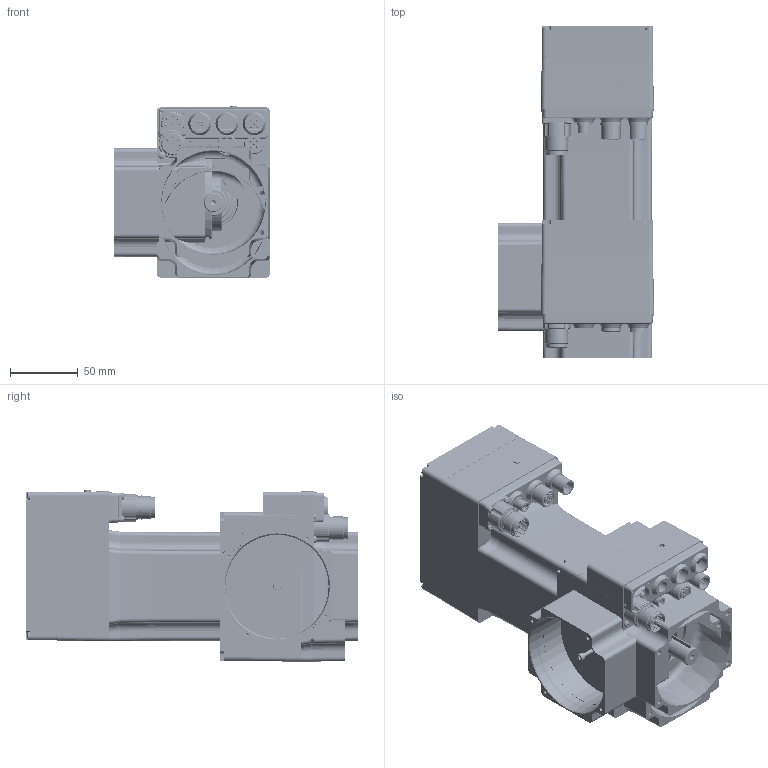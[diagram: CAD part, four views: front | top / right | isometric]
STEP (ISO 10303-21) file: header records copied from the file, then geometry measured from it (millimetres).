
FILE_DESCRIPTION( ( 'Unknown' ), '1' );
FILE_NAME( 'F:/BUFFER/Public/ELISA/DUET 80/Q0B217/Q0B217 1,5.stp', 'Unknown', ( 'Unknown' ), ( 'Unknown' ), 'PSStep 14.0', 'Unknown', ' ' );
FILE_SCHEMA( ( 'AUTOMOTIVE_DESIGN { 1 0 10303 214 1 1 1 1 }' ) );
Length unit declared in the file: millimetre
Products named in the file (45): Assem1; T00246; 005117000974; N54236; CN M23 PAN-POT BEGA 906 4+5p; VECST-8112 M  2,5 x 12; G00030_profibus; G00029_Profibus; N33250; LI-PIA   5x5 x 25; RVTS M3 d8 sp1; CUSC_20_42_12_6004_ZZ; CUSC_15_32_9_6002_ZZ; Anello-elastico-chiuso  42; a-ela  20; N09281; Vite a brugola testa cil 8,8 -  M  3 x 25; Vite a brugola testa cil 8,8 -  M  3 x 25-oa0; Vite a brugola testa cil 8,8 -  M  3 x 25-oa1; Vite a brugola testa cil 8,8 -  M  3 x 25-oa2; Vite a brugola testa cil 8,8 -  M  3 x 12; Vite a brugola testa cil 8,8 -  M  3 x 40; Vite a brugola testa cil 8,8 -  M  3 x 40-oa3; Vite a brugola testa cil 8,8 -  M  3 x 40-oa4; Vite a brugola testa cil 8,8 -  M  3 x 40-oa5; N35217; VECST-8112 M  3 x 30; 003016000054; N01382; N54239
Bounding box: 114.5 x 244.13 x 126.21 mm (x, y, z)
Volume: 1065845.8 mm3; surface area: 530368.1 mm2
Topology: 102 solids, 106 shells, 7397 faces, 20135 edges, 13193 vertices
Faces by surface type: plane 4050, cylinder 2509, bspline 283, cone 272, torus 215, sphere 68
Full cylindrical faces by diameter (mm): 1 x39, 1.5 x72, 2 x4, 2.4 x24, 2.459 x42, 2.5 x13, 2.7 x12, 3 x23, 3.2 x2, 3.5 x40, 4 x5, 4.2 x4, 5 x11, 5.5 x18, 6 x28, 8 x19, 8.5 x9, 8.75 x3, 9 x6, 10 x3, 11 x15, 11.9 x6, 12 x9, 14 x8, 14.4 x3, 14.5 x3, 15 x4, 15.6 x3, 16 x3, 16.5 x3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
Entity records: 104596 total; most frequent: CARTESIAN_POINT 27230, ORIENTED_EDGE 13362, DIRECTION 13235, EDGE_CURVE 6681, AXIS2_PLACEMENT_3D 4750, VERTEX_POINT 4568, LINE 3735, VECTOR 3735
